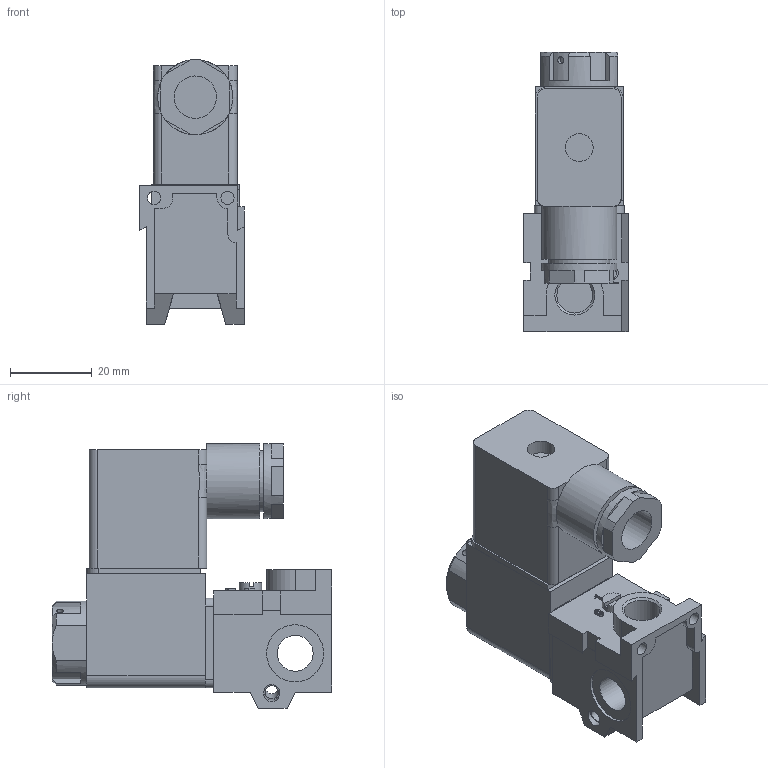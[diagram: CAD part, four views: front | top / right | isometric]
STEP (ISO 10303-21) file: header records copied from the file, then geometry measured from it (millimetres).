
FILE_DESCRIPTION(/* description */ (''),/* implementation_level */ '2;1');
FILE_NAME(/* name */ 'X:\Zeichnungen\3D\Basic-Line\Ventile\86-MS-3V-01-M42.stp',/* time_stamp */ '2015-02-12T08:26:34+01:00',/* author */ ('Tschernatsch'),/* organization */ (''),/* preprocessor_version */ 'ST-DEVELOPER v15.2',/* originating_system */ 'Autodesk Inventor 2014',/* authorisation */ '');
FILE_SCHEMA (('AUTOMOTIVE_DESIGN { 1 0 10303 214 3 1 1 }'));
Length unit declared in the file: millimetre
Products named in the file (8): 3V1-06; 3V1-06A-05; Bauteil4; Bauteil5; Bauteil6; Bauteil7; 4V210; 86-MS-3V-01-M42
Bounding box: 25.6 x 68.6 x 64.9 mm (x, y, z)
Volume: 52519.4 mm3; surface area: 22374.7 mm2
Topology: 7 solids, 7 shells, 223 faces, 584 edges, 389 vertices
Faces by surface type: plane 142, cylinder 59, bspline 11, cone 11
Full cylindrical faces by diameter (mm): 1.7 x2, 2 x2, 2.5 x3, 3.2 x2, 3.3 x1, 3.5 x2, 4 x1, 5.5 x1, 6.8 x2, 8 x2, 8.8 x2, 9.2 x1, 10.4 x1, 11.5 x1, 13 x1, 14 x2, 15 x2, 15.7 x1, 18.4 x2
Entity records: 8340 total; most frequent: CARTESIAN_POINT 2799, DIRECTION 1091, ORIENTED_EDGE 1076, EDGE_CURVE 538, VERTEX_POINT 383, AXIS2_PLACEMENT_3D 376, LINE 339, VECTOR 339
